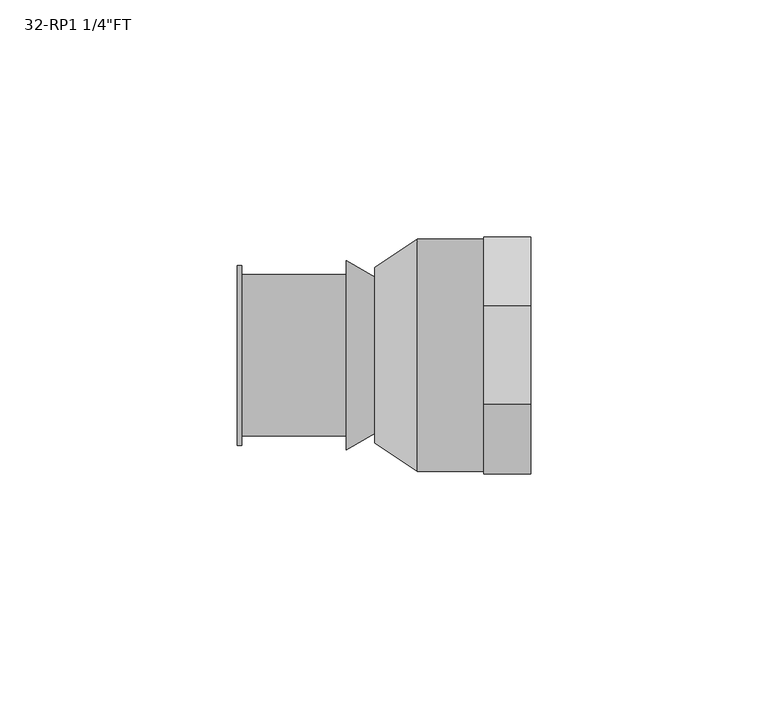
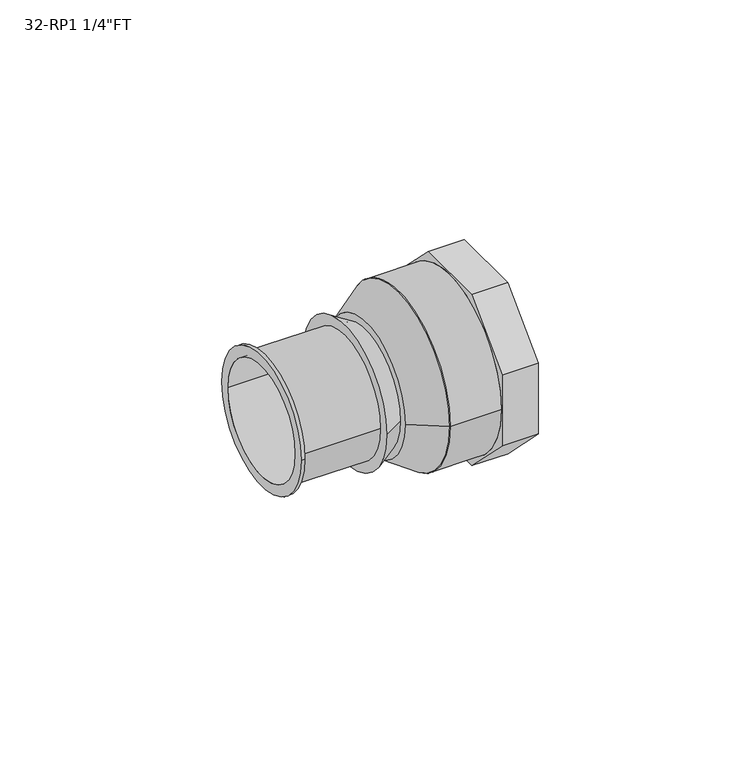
"""IFC4 building model written with IfcOpenShell, lengths in millimetres: pipe fitting geometry."""

import ifcopenshell
import ifcopenshell.guid

model = None  # the IFC model being written
_history = None  # IfcOwnerHistory: only IFC2X3 demands one
_inside = {}  # id of a spatial element -> (the spatial element, [elements in it])
_under = {}  # id of a project, library or spatial element -> (it, [spatial elements below it])
_declared = {}  # id of a project -> (the project, [libraries it declares])
_typed = {}  # id of a type object -> (the type object, [elements of that type])
_made_of = {}  # id of a material, layer set ... -> (it, [elements and type objects made of it])


def new_model(schema):
    """Start an empty IFC model of exactly this schema.

    Asked for "IFC4X3", IfcOpenShell would pick the latest addendum, in which some entities
    have other attributes; the version numbers below select the first issue.
    IFC2X3 requires an IfcOwnerHistory on every rooted entity: one is made here for all.
    """
    global model, _history
    if schema == "IFC4X3":
        model = ifcopenshell.file(schema_version=(4, 3, 0, 0))
    else:
        model = ifcopenshell.file(schema=schema)
    _inside.clear()
    _under.clear()
    _declared.clear()
    _typed.clear()
    _made_of.clear()
    _history = None
    if model.schema == "IFC2X3":
        org = make("IfcOrganization", Name="unknown")
        user = make(
            "IfcPersonAndOrganization",
            ThePerson=make("IfcPerson", FamilyName="unknown"),
            TheOrganization=org,
        )
        app = make(
            "IfcApplication",
            ApplicationDeveloper=org,
            Version="unknown",
            ApplicationFullName="unknown",
            ApplicationIdentifier="unknown",
        )
        _history = make(
            "IfcOwnerHistory",
            OwningUser=user,
            OwningApplication=app,
            ChangeAction="ADDED",
            CreationDate=0,
        )
    return model


def make(cls, **values):
    """One entity of the class cls with the attributes given. An attribute that is None is left unset."""
    return model.create_entity(
        cls, **{name: value for name, value in values.items() if value is not None}
    )


def rooted(cls, **values):
    """An entity with a GlobalId (a new one), such as an element, a storey or a relation."""
    return make(cls, GlobalId=ifcopenshell.guid.new(), OwnerHistory=_history, **values)


def si_unit(unit_type, name, prefix=None):
    """IfcSIUnit, for example si_unit("LENGTHUNIT", "METRE", prefix="MILLI")."""
    return make("IfcSIUnit", UnitType=unit_type, Prefix=prefix, Name=name)


def assignment(units):
    """IfcUnitAssignment: the units of a project."""
    return None if units is None else make("IfcUnitAssignment", Units=units)


def point(xyz):
    """IfcCartesianPoint."""
    return None if xyz is None else make("IfcCartesianPoint", Coordinates=xyz)


def direction(xyz):
    """IfcDirection."""
    return None if xyz is None else make("IfcDirection", DirectionRatios=xyz)


def frame(location, z_axis=None, x_axis=None):
    """IfcAxis2Placement3D, a coordinate frame: its origin and axes. An axis left out is left unset."""
    return make(
        "IfcAxis2Placement3D",
        Location=point(location),
        Axis=direction(z_axis),
        RefDirection=direction(x_axis),
    )


def origin():
    """The frame at (0, 0, 0) with its axes left unset."""
    return frame((0.0, 0.0, 0.0))


def place(relative_to, where):
    """IfcLocalPlacement: puts the frame where relative to a parent placement (None: the world)."""
    return make(
        "IfcLocalPlacement", PlacementRelTo=relative_to, RelativePlacement=where
    )


def context(
    kind, dimensions, precision=None, world=None, true_north=None, identifier=None
):
    """IfcGeometricRepresentationContext, for example the 3D "Model" context."""
    return make(
        "IfcGeometricRepresentationContext",
        ContextIdentifier=identifier,
        ContextType=kind,
        CoordinateSpaceDimension=dimensions,
        Precision=precision,
        WorldCoordinateSystem=world,
        TrueNorth=true_north,
    )


def project(units=None, contexts=None):
    """IfcProject with its units and contexts."""
    return rooted(
        "IfcProject",
        Name="project",
        RepresentationContexts=contexts,
        UnitsInContext=assignment(units),
    )


def spatial(cls, under=None, at=None, **own):
    """A site, building, storey or space (cls), placed at a placement, below another one or the project."""
    s = rooted(cls, ObjectPlacement=at, **own)
    if under is not None:
        _under.setdefault(under.id(), (under, []))[1].append(s)
    return s


def polyline(points):
    """IfcPolyline through the points."""
    return make("IfcPolyline", Points=[point(p) for p in points])


def circle_curve(where, radius):
    """IfcCircle in the frame where."""
    return make("IfcCircle", Position=where, Radius=radius)


def shape(context_of_items, identifier, shape_type, items):
    """IfcShapeRepresentation: the items that make up one representation, for example the "Body"."""
    return make(
        "IfcShapeRepresentation",
        ContextOfItems=context_of_items,
        RepresentationIdentifier=identifier,
        RepresentationType=shape_type,
        Items=items,
    )


def source(mapping_origin, context_of_items, identifier, shape_type, items):
    """IfcRepresentationMap: a shape defined once, which mapped items show again and again."""
    return make(
        "IfcRepresentationMap",
        MappingOrigin=mapping_origin,
        MappedRepresentation=shape(context_of_items, identifier, shape_type, items),
    )


def transform(
    local_origin,
    x_axis=None,
    y_axis=None,
    z_axis=None,
    scale=None,
    scale2=None,
    scale3=None,
    uniform=True,
):
    """IfcCartesianTransformationOperator3D, or its non-uniform kind. x_axis, y_axis, z_axis: its Axis1, 2, 3."""
    if uniform:
        return make(
            "IfcCartesianTransformationOperator3D",
            Axis1=direction(x_axis),
            Axis2=direction(y_axis),
            LocalOrigin=point(local_origin),
            Scale=scale,
            Axis3=direction(z_axis),
        )
    return make(
        "IfcCartesianTransformationOperator3DnonUniform",
        Axis1=direction(x_axis),
        Axis2=direction(y_axis),
        LocalOrigin=point(local_origin),
        Scale=scale,
        Axis3=direction(z_axis),
        Scale2=scale2,
        Scale3=scale3,
    )


def mapped(mapping_source, mapping_target):
    """IfcMappedItem: shows the shape of a source again, moved by a transform."""
    return make(
        "IfcMappedItem", MappingSource=mapping_source, MappingTarget=mapping_target
    )


def made_of(thing, what):
    """Note that an element or type object is made of a material, layer set ...; save() writes the relation."""
    if what is not None:
        _made_of.setdefault(what.id(), (what, []))[1].append(thing)
    return thing


def element(
    cls,
    number,
    at=None,
    inside=None,
    cuts=None,
    type_object=None,
    material=None,
    context=None,
    identifier="Body",
    shape_type=None,
    held_by="IfcProductDefinitionShape",
    body=None,
    shapes=None,
    **own,
):
    """One element of the class cls, such as IfcWall. Its Tag is "e" and its number.

    at: its placement. inside: the storey or other place that contains it. cuts: it is an
    opening in that element (IfcRelVoidsElement). A single representation is given by context,
    identifier, shape_type and body (its items); several are given by shapes. held_by: the class
    of the entity that holds the representations. save() writes the other relations.
    """
    e = rooted(cls, Tag="e%d" % number, ObjectPlacement=at, **own)
    if body is not None:
        shapes = [shape(context, identifier, shape_type, body)]
    if shapes is not None:
        e.Representation = make(held_by, Representations=shapes)
    if inside is not None:
        _inside.setdefault(inside.id(), (inside, []))[1].append(e)
    if cuts is not None:
        rooted(
            "IfcRelVoidsElement", RelatingBuildingElement=cuts, RelatedOpeningElement=e
        )
    if type_object is not None:
        _typed.setdefault(type_object.id(), (type_object, []))[1].append(e)
    return made_of(e, material)


def aggregate(whole, parts):
    """IfcRelAggregates: a whole, such as a stair, and the parts it consists of."""
    return rooted("IfcRelAggregates", RelatingObject=whole, RelatedObjects=parts)


def save(model, path):
    """Write the relations noted so far, then the file.

    IfcRelAggregates (storeys below a building ...), IfcRelContainedInSpatialStructure (elements
    in a storey), IfcRelDefinesByType, IfcRelAssociatesMaterial and IfcRelDeclares: one each for
    every whole, place, type object, material and project.
    """
    for whole, parts in _under.values():
        aggregate(whole, parts)
    for where, things in _inside.values():
        rooted(
            "IfcRelContainedInSpatialStructure",
            RelatedElements=things,
            RelatingStructure=where,
        )
    for kind, things in _typed.values():
        rooted("IfcRelDefinesByType", RelatedObjects=things, RelatingType=kind)
    for what, things in _made_of.values():
        rooted("IfcRelAssociatesMaterial", RelatedObjects=things, RelatingMaterial=what)
    for by, libraries in _declared.values():
        rooted("IfcRelDeclares", RelatingContext=by, RelatedDefinitions=libraries)
    model.write(path)


def plane_surface(at):
    """IfcPlane: the flat surface through the origin of the frame at, square to its z axis."""
    return make("IfcPlane", Position=at)


def cylinder_surface(at, radius):
    """IfcCylindricalSurface: all points at the distance radius from the z axis of the frame at."""
    return make("IfcCylindricalSurface", Position=at, Radius=radius)


def revolved_surface(curve, axis_point, axis_direction):
    """IfcSurfaceOfRevolution: the curve turned about the line through axis_point along axis_direction."""
    return make(
        "IfcSurfaceOfRevolution",
        SweptCurve=make("IfcArbitraryOpenProfileDef", ProfileType="CURVE", Curve=curve),
        AxisPosition=make("IfcAxis1Placement", Location=point(axis_point), Axis=direction(axis_direction)),
    )


def advanced_brep(points, edges, surfaces, faces):
    """IfcAdvancedBrep: a solid bounded by faces that lie on surfaces and meet in shared edges.

    An edge is (start, end): straight between two places in points (the first is 0);
    or (start, end, curve); or (start, end, curve, False) where it runs against its curve.
    A face is (place in surfaces, loops), or (place, loops, False) where it looks against
    its surface's normal. A loop lists edges by number (the first is 1), with a minus sign
    where the edge is run from its end to its start. The first loop is the outer one.
    """
    corners = [point(p) for p in points]
    vertices = [make("IfcVertexPoint", VertexGeometry=c) for c in corners]
    made = []
    for start, end, *more in edges:
        made.append(
            make(
                "IfcEdgeCurve",
                EdgeStart=vertices[start],
                EdgeEnd=vertices[end],
                EdgeGeometry=more[0] if more else make("IfcPolyline", Points=[corners[start], corners[end]]),
                SameSense=more[1] if len(more) > 1 else True,
            )
        )
    hull = []
    for where, loops, *sense in faces:
        bounds = []
        for j, loop in enumerate(loops):
            ring = [make("IfcOrientedEdge", EdgeElement=made[abs(k) - 1], Orientation=k > 0) for k in loop]
            bounds.append(
                make(
                    "IfcFaceOuterBound" if j == 0 else "IfcFaceBound",
                    Bound=make("IfcEdgeLoop", EdgeList=ring),
                    Orientation=True,
                )
            )
        hull.append(make("IfcAdvancedFace", Bounds=bounds, FaceSurface=surfaces[where], SameSense=sense[0] if sense else True))
    return make("IfcAdvancedBrep", Outer=make("IfcClosedShell", CfsFaces=hull))


def pipe_fitting_e706b996(model_context):
    return source(origin(), model_context, "Body", "AdvancedBrep", [
        advanced_brep(
        [(17.0, -25.0, 10.3553391), (17.0, -10.3553391, 25.0), (17.0, 10.3553391, 25.0), (17.0, 25.0, 10.3553391), (17.0, 25.0, -10.3553391), (17.0, 10.3553391, -25.0), (17.0, -10.3553391, -25.0), (17.0, -25.0, -10.3553391), (17.0, 24.5, 0.0), (17.0, -24.5, 0.0), (27.0, -25.0, 10.3553391), (27.0, -25.0, -10.3553391), (27.0, -10.3553391, -25.0), (27.0, 10.3553391, -25.0), (27.0, 25.0, -10.3553391), (27.0, 25.0, 10.3553391), (27.0, 10.3553391, 25.0), (27.0, -10.3553391, 25.0), (27.0, -19.5, 0.0), (27.0, 19.5, 0.0), (17.0, 19.5, 0.0), (17.0, -19.5, 0.0), (3.0, -24.5, 0.0), (3.0, 24.5, 0.0), (3.0, -19.5, 0.0), (3.0, 19.5, 0.0)],
        [
            (0, 1),
            (1, 2),
            (2, 3),
            (3, 4),
            (4, 5),
            (5, 6),
            (6, 7),
            (7, 0),
            (8, 9, circle_curve(frame((17.0, 0.0, 0.0), z_axis=(1.0, 0.0, 0.0), x_axis=(0.0, 1.0, 0.0)), 24.5)),
            (9, 8, circle_curve(frame((17.0, 0.0, 0.0), z_axis=(1.0, 0.0, 0.0), x_axis=(0.0, 1.0, 0.0)), 24.5)),
            (10, 11),
            (11, 12),
            (12, 13),
            (13, 14),
            (14, 15),
            (15, 16),
            (16, 17),
            (17, 10),
            (18, 19, circle_curve(frame((27.0, 0.0, 0.0), z_axis=(-1.0, 0.0, 0.0), x_axis=(0.0, 1.0, 0.0)), 19.5)),
            (19, 18, circle_curve(frame((27.0, 0.0, 0.0), z_axis=(-1.0, 0.0, 0.0), x_axis=(0.0, 1.0, 0.0)), 19.5)),
            (0, 10),
            (17, 1),
            (16, 2),
            (15, 3),
            (14, 4),
            (13, 5),
            (12, 6),
            (11, 7),
            (19, 20),
            (20, 21, circle_curve(frame((17.0, 0.0, 0.0), z_axis=(-1.0, 0.0, 0.0), x_axis=(0.0, 1.0, 0.0)), 19.5)),
            (21, 18),
            (21, 20, circle_curve(frame((17.0, 0.0, 0.0), z_axis=(-1.0, 0.0, 0.0), x_axis=(0.0, 1.0, 0.0)), 19.5)),
            (22, 23, circle_curve(frame((3.0, 0.0, 0.0), z_axis=(-1.0, 0.0, 0.0), x_axis=(0.0, 1.0, 0.0)), 24.5)),
            (23, 22, circle_curve(frame((3.0, 0.0, 0.0), z_axis=(-1.0, 0.0, 0.0), x_axis=(0.0, 1.0, 0.0)), 24.5)),
            (24, 25, circle_curve(frame((3.0, 0.0, 0.0), z_axis=(1.0, 0.0, 0.0), x_axis=(0.0, 1.0, 0.0)), 19.5)),
            (25, 24, circle_curve(frame((3.0, 0.0, 0.0), z_axis=(1.0, 0.0, 0.0), x_axis=(0.0, 1.0, 0.0)), 19.5)),
            (24, 21),
            (20, 25),
            (22, 9),
            (8, 23),
        ],
        [
            plane_surface(frame((17.0, 0.0, 0.0), z_axis=(-1.0, 0.0, 0.0), x_axis=(0.0, 0.0, 1.0))),
            plane_surface(frame((27.0, 0.0, 0.0), z_axis=(1.0, 0.0, 0.0), x_axis=(0.0, 0.0, 1.0))),
            plane_surface(frame((17.0, -25.0, 10.3553391), z_axis=(0.0, -0.7071067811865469, 0.7071067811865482), x_axis=(1.0, 0.0, 0.0))),
            plane_surface(frame((17.0, -10.3553391, 25.0), z_axis=(0.0, 0.0, 1.0), x_axis=(1.0, 0.0, 0.0))),
            plane_surface(frame((17.0, 10.3553391, 25.0), z_axis=(0.0, 0.7071067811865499, 0.7071067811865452), x_axis=(1.0, 0.0, 0.0))),
            plane_surface(frame((17.0, 25.0, 10.3553391), z_axis=(0.0, 1.0, 0.0), x_axis=(1.0, 0.0, 0.0))),
            plane_surface(frame((17.0, 25.0, -10.3553391), z_axis=(0.0, 0.7071067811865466, -0.7071067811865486), x_axis=(1.0, 0.0, 0.0))),
            plane_surface(frame((17.0, 10.3553391, -25.0), z_axis=(0.0, 0.0, -1.0), x_axis=(1.0, 0.0, 0.0))),
            plane_surface(frame((17.0, -10.3553391, -25.0), z_axis=(0.0, -0.7071067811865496, -0.7071067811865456), x_axis=(1.0, 0.0, 0.0))),
            plane_surface(frame((17.0, -25.0, -10.3553391), z_axis=(0.0, -1.0, 0.0), x_axis=(1.0, 0.0, 0.0))),
            revolved_surface(polyline([(27.0, 19.5, 0.0), (17.0, 19.5, 0.0)]), (17.0, 0.0, 0.0), (1.0, 0.0, 0.0)),
            plane_surface(frame((3.0, 0.0, 0.0), z_axis=(-1.0, 0.0, 0.0), x_axis=(0.0, 0.0, 1.0))),
            revolved_surface(polyline([(17.0, 19.5, 0.0), (3.0, 19.5, 0.0)]), (3.0, 0.0, 0.0), (1.0, 0.0, 0.0)),
            cylinder_surface(frame((3.0, 0.0, 0.0), z_axis=(-1.0, 0.0, 0.0), x_axis=(0.0, 1.0, 0.0)), 24.5),
        ],
        [
            (0, [[1, 2, 3, 4, 5, 6, 7, 8], [9, 10]]),
            (1, [[11, 12, 13, 14, 15, 16, 17, 18], [19, 20]]),
            (2, [[-1, 21, -18, 22]]),
            (3, [[-2, -22, -17, 23]]),
            (4, [[-3, -23, -16, 24]]),
            (5, [[-4, -24, -15, 25]]),
            (6, [[-5, -25, -14, 26]]),
            (7, [[-6, -26, -13, 27]]),
            (8, [[-7, -27, -12, 28]]),
            (9, [[-8, -28, -11, -21]]),
            (10, [[-20, 29, 30, 31]]),
            (10, [[-19, -31, 32, -29]]),
            (11, [[33, 34], [35, 36]]),
            (12, [[-35, 37, -30, 38]]),
            (12, [[-36, -38, -32, -37]]),
            (13, [[-33, 39, -9, 40]]),
            (13, [[-34, -40, -10, -39]]),
        ],
    ),
        advanced_brep(
        [(3.0, -24.5, 0.0), (3.0, 24.5, 0.0), (-6.0, -18.5, 0.0), (-6.0, 18.5, 0.0)],
        [
            (0, 1, circle_curve(frame((3.0, 0.0, 0.0), z_axis=(1.0, 0.0, 0.0), x_axis=(0.0, -1.0, 0.0)), 24.5)),
            (1, 0, circle_curve(frame((3.0, 0.0, 0.0), z_axis=(1.0, 0.0, 0.0), x_axis=(0.0, 1.0, 0.0)), 24.5)),
            (2, 3, circle_curve(frame((-6.0, 0.0, 0.0), z_axis=(-1.0, 0.0, 0.0), x_axis=(0.0, 1.0, 0.0)), 18.5)),
            (3, 2, circle_curve(frame((-6.0, 0.0, 0.0), z_axis=(-1.0, 0.0, 0.0), x_axis=(0.0, -1.0, 0.0)), 18.5)),
            (3, 1),
            (0, 2),
        ],
        [
            plane_surface(frame((3.0, 0.0, 0.0), z_axis=(1.0, 0.0, 0.0), x_axis=(0.0, 0.0, -1.0))),
            plane_surface(frame((-6.0, 0.0, 0.0), z_axis=(-1.0, 0.0, 0.0), x_axis=(0.0, 0.0, -1.0))),
            revolved_surface(polyline([(-6.0000000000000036, 18.5, 0.0), (3.0, 24.5, 0.0)]), (-33.75, 0.0, 0.0), (1.0, 0.0, 0.0)),
            revolved_surface(polyline([(-6.0000000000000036, -18.5, 0.0), (3.0, -24.5, 0.0)]), (-33.75, 0.0, 0.0), (1.0, 0.0, 0.0)),
        ],
        [
            (0, [[1, 2]]),
            (1, [[3, 4]]),
            (2, [[-4, 5, -1, 6]]),
            (3, [[-3, -6, -2, -5]]),
        ],
    ),
        advanced_brep(
        [(-35.0, -19.0, 0.0), (-35.0, 19.0, 0.0), (-35.0, -16.0, 0.0), (-35.0, 16.0, 0.0), (-12.0, -17.0, 0.0), (-12.0, 17.0, 0.0), (-12.0, -16.0, 0.0), (-12.0, 16.0, 0.0), (-34.0, 17.0, 0.0), (-34.0, -17.0, 0.0), (-34.0, -19.0, 0.0), (-34.0, 19.0, 0.0)],
        [
            (0, 1, circle_curve(frame((-35.0, 0.0, 0.0), z_axis=(-1.0, 0.0, 0.0), x_axis=(0.0, 1.0, 0.0)), 19.0)),
            (1, 0, circle_curve(frame((-35.0, 0.0, 0.0), z_axis=(-1.0, 0.0, 0.0), x_axis=(0.0, 1.0, 0.0)), 19.0)),
            (2, 3, circle_curve(frame((-35.0, 0.0, 0.0), z_axis=(1.0, 0.0, 0.0), x_axis=(0.0, 1.0, 0.0)), 16.0)),
            (3, 2, circle_curve(frame((-35.0, 0.0, 0.0), z_axis=(1.0, 0.0, 0.0), x_axis=(0.0, 1.0, 0.0)), 16.0)),
            (4, 5, circle_curve(frame((-12.0, 0.0, 0.0), z_axis=(1.0, 0.0, 0.0), x_axis=(0.0, 1.0, 0.0)), 17.0)),
            (5, 4, circle_curve(frame((-12.0, 0.0, 0.0), z_axis=(1.0, 0.0, 0.0), x_axis=(0.0, 1.0, 0.0)), 17.0)),
            (6, 7, circle_curve(frame((-12.0, 0.0, 0.0), z_axis=(-1.0, 0.0, 0.0), x_axis=(0.0, 1.0, 0.0)), 16.0)),
            (7, 6, circle_curve(frame((-12.0, 0.0, 0.0), z_axis=(-1.0, 0.0, 0.0), x_axis=(0.0, 1.0, 0.0)), 16.0)),
            (2, 6),
            (7, 3),
            (5, 8),
            (8, 9, circle_curve(frame((-34.0, 0.0, 0.0), z_axis=(1.0, 0.0, 0.0), x_axis=(0.0, 1.0, 0.0)), 17.0)),
            (9, 4),
            (9, 8, circle_curve(frame((-34.0, 0.0, 0.0), z_axis=(1.0, 0.0, 0.0), x_axis=(0.0, 1.0, 0.0)), 17.0)),
            (10, 11, circle_curve(frame((-34.0, 0.0, 0.0), z_axis=(1.0, 0.0, 0.0), x_axis=(0.0, 1.0, 0.0)), 19.0)),
            (11, 10, circle_curve(frame((-34.0, 0.0, 0.0), z_axis=(1.0, 0.0, 0.0), x_axis=(0.0, 1.0, 0.0)), 19.0)),
            (0, 10),
            (11, 1),
        ],
        [
            plane_surface(frame((-35.0, 0.0, 0.0), z_axis=(-1.0, 0.0, 0.0), x_axis=(0.0, 0.0, 1.0))),
            plane_surface(frame((-12.0, 0.0, 0.0), z_axis=(1.0, 0.0, 0.0), x_axis=(0.0, 0.0, 1.0))),
            revolved_surface(polyline([(-12.0, 16.0, 0.0), (-35.0, 16.0, 0.0)]), (-35.0, 0.0, 0.0), (1.0, 0.0, 0.0)),
            cylinder_surface(frame((-35.0, 0.0, 0.0), z_axis=(-1.0, 0.0, 0.0), x_axis=(0.0, 1.0, 0.0)), 17.0),
            plane_surface(frame((-34.0, 0.0, 0.0), z_axis=(1.0, 0.0, 0.0), x_axis=(0.0, 0.0, 1.0))),
            cylinder_surface(frame((-35.0, 0.0, 0.0), z_axis=(-1.0, 0.0, 0.0), x_axis=(0.0, 1.0, 0.0)), 19.0),
        ],
        [
            (0, [[1, 2], [3, 4]]),
            (1, [[5, 6], [7, 8]]),
            (2, [[-3, 9, -8, 10]]),
            (2, [[-4, -10, -7, -9]]),
            (3, [[-6, 11, 12, 13]]),
            (3, [[-5, -13, 14, -11]]),
            (4, [[15, 16], [-12, -14]]),
            (5, [[-1, 17, -16, 18]]),
            (5, [[-2, -18, -15, -17]]),
        ],
    ),
        advanced_brep(
        [(-6.0, -16.5, 0.0), (-6.0, 16.5, 0.0), (-6.0, 16.0, 0.0), (-6.0, -16.0, 0.0), (-12.0, -20.0, 0.0), (-12.0, 20.0, 0.0), (-12.0, -16.0, 0.0), (-12.0, 16.0, 0.0)],
        [
            (0, 1, circle_curve(frame((-6.0, 0.0, 0.0), z_axis=(1.0, 0.0, 0.0), x_axis=(0.0, -1.0, 0.0)), 16.5)),
            (1, 0, circle_curve(frame((-6.0, 0.0, 0.0), z_axis=(1.0, 0.0, 0.0), x_axis=(0.0, 1.0, 0.0)), 16.5)),
            (2, 3, circle_curve(frame((-6.0, 0.0, 0.0), z_axis=(-1.0, 0.0, 0.0), x_axis=(0.0, 1.0, 0.0)), 16.0)),
            (3, 2, circle_curve(frame((-6.0, 0.0, 0.0), z_axis=(-1.0, 0.0, 0.0), x_axis=(0.0, 1.0, 0.0)), 16.0)),
            (4, 5, circle_curve(frame((-12.0, 0.0, 0.0), z_axis=(-1.0, 0.0, 0.0), x_axis=(0.0, 1.0, 0.0)), 20.0)),
            (5, 4, circle_curve(frame((-12.0, 0.0, 0.0), z_axis=(-1.0, 0.0, 0.0), x_axis=(0.0, -1.0, 0.0)), 20.0)),
            (6, 7, circle_curve(frame((-12.0, 0.0, 0.0), z_axis=(1.0, 0.0, 0.0), x_axis=(0.0, 1.0, 0.0)), 16.0)),
            (7, 6, circle_curve(frame((-12.0, 0.0, 0.0), z_axis=(1.0, 0.0, 0.0), x_axis=(0.0, 1.0, 0.0)), 16.0)),
            (0, 4),
            (5, 1),
            (2, 7),
            (6, 3),
        ],
        [
            plane_surface(frame((-6.0, 0.0, 0.0), z_axis=(1.0, 0.0, 0.0), x_axis=(0.0, 0.0, -1.0))),
            plane_surface(frame((-12.0, 0.0, 0.0), z_axis=(-1.0, 0.0, 0.0), x_axis=(0.0, 0.0, -1.0))),
            revolved_surface(polyline([(-6.0, -16.500000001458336, 0.0), (-11.999999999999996, -20.0, 0.0)]), (22.2857143, 0.0, 0.0), (-1.0, 0.0, 0.0)),
            revolved_surface(polyline([(-6.0, 16.500000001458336, 0.0), (-11.999999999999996, 20.0, 0.0)]), (22.2857143, 0.0, 0.0), (-1.0, 0.0, 0.0)),
            revolved_surface(polyline([(-6.0, 16.0, 0.0), (-12.0, 16.0, 0.0)]), (-12.0, 0.0, 0.0), (1.0, 0.0, 0.0)),
        ],
        [
            (0, [[1, 2], [3, 4]]),
            (1, [[5, 6], [7, 8]]),
            (2, [[-1, 9, -6, 10]]),
            (3, [[-2, -10, -5, -9]]),
            (4, [[11, -7, 12, -3]]),
            (4, [[-11, -4, -12, -8]]),
        ],
    ),
    ])


if __name__ == "__main__":
    model = new_model("IFC4")
    model_context = context("Model", 3, world=origin())
    ifc_project = project(units=[si_unit("LENGTHUNIT", "METRE", prefix="MILLI")], contexts=[model_context])
    site = spatial("IfcSite", under=ifc_project)
    building = spatial("IfcBuilding", under=site)
    placement = place(None, origin())
    pipe_fitting_shape = pipe_fitting_e706b996(model_context)
    element("IfcPipeFitting", 1, ObjectType="SuperPipe_AdapterFT_MAX_RP : 32-RP1 1/4\"FT", at=placement, inside=building, context=model_context, shape_type="MappedRepresentation", body=[
        mapped(pipe_fitting_shape, transform((0.0, 0.0, 0.0), x_axis=(1.0, 0.0, 0.0), y_axis=(0.0, 1.0, 0.0), z_axis=(0.0, 0.0, 1.0))),
    ])
    save(model, "model.ifc")
